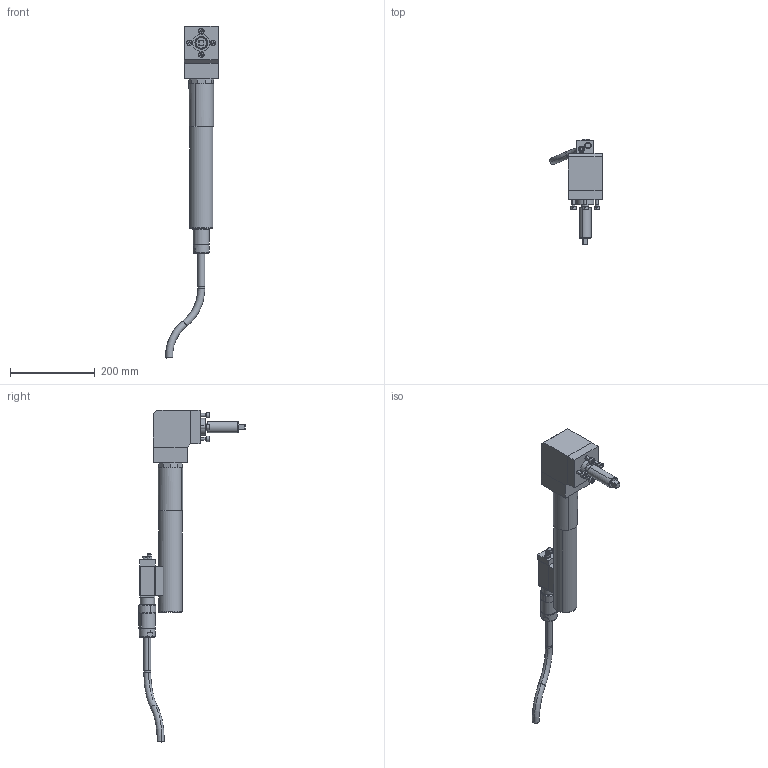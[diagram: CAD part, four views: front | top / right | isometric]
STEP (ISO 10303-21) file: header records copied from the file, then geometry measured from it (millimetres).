
FILE_DESCRIPTION(('CATIA V5 STEP Exchange'),'2;1');
FILE_NAME('C:\pro\7920298_ECR211_AW225_AllCATPart.stp','2008-11-10T09:30:48+00:00',('none'),('none'),'CATIA Version 5 Release 17 (IN-10)','CATIA V5 STEP AP203','none');
FILE_SCHEMA(('CONFIG_CONTROL_DESIGN'));
Length unit declared in the file: millimetre
Products named in the file (1): 7920298_ECR211_AW225_AllCATPart
Bounding box: 123.82 x 250.98 x 784.26 mm (x, y, z)
Volume: 2271304.3 mm3; surface area: 243263.1 mm2
Topology: 17 solids, 17 shells, 353 faces, 772 edges, 474 vertices
Faces by surface type: plane 167, cylinder 110, cone 48, torus 28
Entity records: 9049 total; most frequent: CARTESIAN_POINT 1849, ORIENTED_EDGE 1520, DIRECTION 1240, EDGE_CURVE 760, AXIS2_PLACEMENT_3D 589, VERTEX_POINT 474, VECTOR 392, LINE 392
